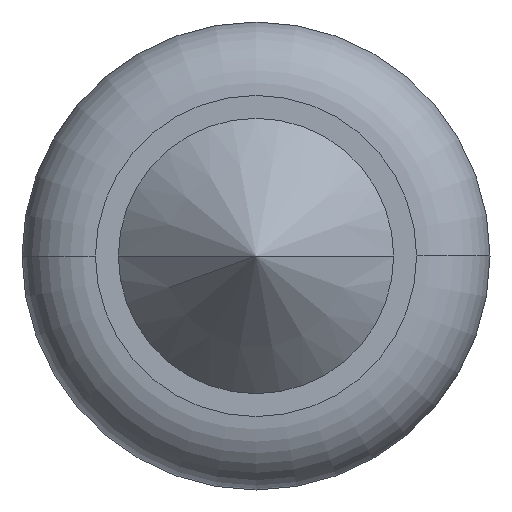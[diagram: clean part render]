
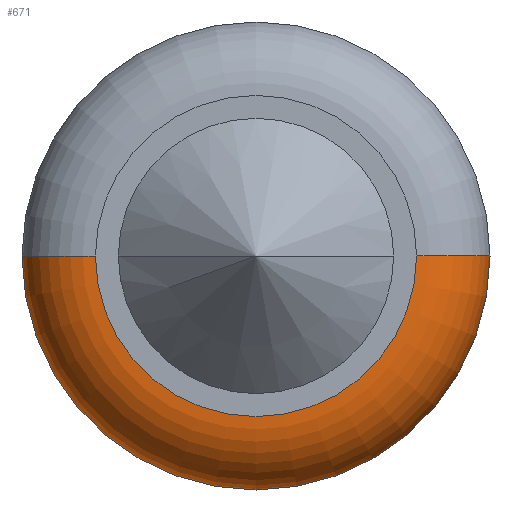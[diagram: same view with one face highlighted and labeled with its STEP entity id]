
A CAD part, front view. The second image highlights one B-rep face of the part: STEP entity #671.
In plain terms, the highlighted toroidal (fillet/blend) face has major radius 0.175 mm and minor radius 0.08 mm.
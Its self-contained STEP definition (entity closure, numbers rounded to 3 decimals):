
#236=CARTESIAN_POINT('',(0.,-3.92,0.));
#237=DIRECTION('',(0.,1.,0.));
#238=DIRECTION('',(1.,0.,0.));
#239=AXIS2_PLACEMENT_3D('',#236,#237,#238);
#241=CARTESIAN_POINT('',(0.175,-3.92,0.));
#242=DIRECTION('',(0.,0.,-1.));
#243=DIRECTION('',(1.,0.,0.));
#244=AXIS2_PLACEMENT_3D('',#241,#242,#243);
#246=CARTESIAN_POINT('',(-0.175,-3.92,0.));
#247=DIRECTION('',(0.,0.,1.));
#248=DIRECTION('',(-1.,0.,0.));
#249=AXIS2_PLACEMENT_3D('',#246,#247,#248);
#261=CARTESIAN_POINT('',(0.,-4.,0.));
#262=DIRECTION('',(0.,1.,0.));
#263=DIRECTION('',(1.,0.,0.));
#264=AXIS2_PLACEMENT_3D('',#261,#262,#263);
#343=CARTESIAN_POINT('',(0.255,-3.92,0.));
#344=CARTESIAN_POINT('',(-0.255,-3.92,0.));
#345=VERTEX_POINT('',#343);
#346=VERTEX_POINT('',#344);
#347=CARTESIAN_POINT('',(0.175,-4.,0.));
#348=CARTESIAN_POINT('',(-0.175,-4.,0.));
#349=VERTEX_POINT('',#347);
#350=VERTEX_POINT('',#348);
#657=CARTESIAN_POINT('',(0.,-3.92,0.));
#658=DIRECTION('',(0.,1.,0.));
#659=DIRECTION('',(0.999,0.,0.036));
#660=AXIS2_PLACEMENT_3D('',#657,#658,#659);
#661=TOROIDAL_SURFACE('',#660,0.175,0.08);
#662=ORIENTED_EDGE('',*,*,#651,.T.);
#664=ORIENTED_EDGE('',*,*,#663,.T.);
#666=ORIENTED_EDGE('',*,*,#665,.F.);
#668=ORIENTED_EDGE('',*,*,#667,.F.);
#669=EDGE_LOOP('',(#662,#664,#666,#668));
#670=FACE_OUTER_BOUND('',#669,.F.);
#240=CIRCLE('',#239,0.255);
#245=CIRCLE('',#244,0.08);
#250=CIRCLE('',#249,0.08);
#265=CIRCLE('',#264,0.175);
#651=EDGE_CURVE('',#345,#346,#240,.T.);
#663=EDGE_CURVE('',#346,#350,#250,.T.);
#665=EDGE_CURVE('',#349,#350,#265,.T.);
#667=EDGE_CURVE('',#345,#349,#245,.T.);
#671=ADVANCED_FACE('',(#670),#661,.T.);
